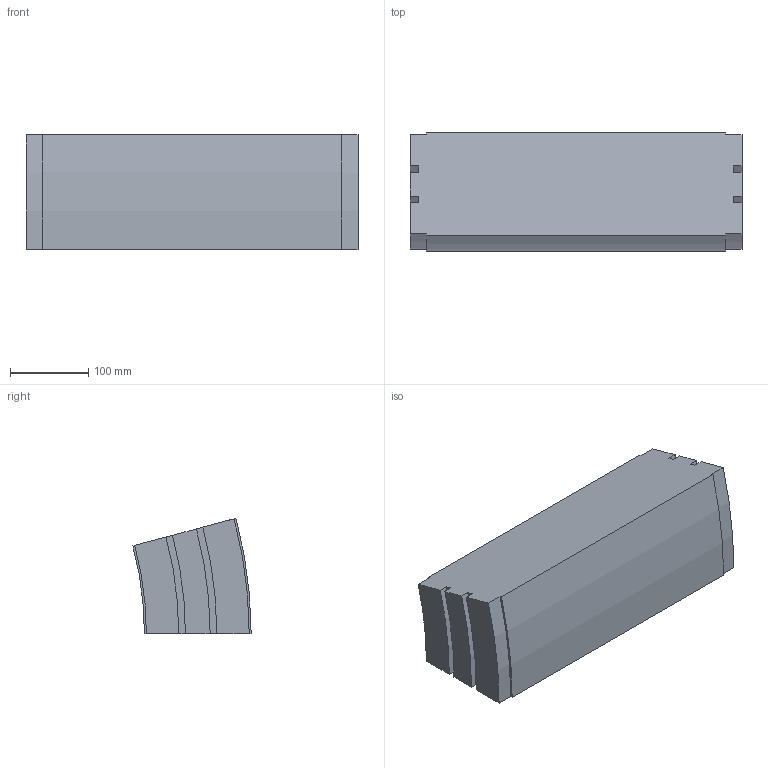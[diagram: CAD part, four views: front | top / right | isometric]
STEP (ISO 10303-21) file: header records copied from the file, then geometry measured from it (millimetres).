
FILE_DESCRIPTION (( 'STEP AP214' ), '1' );
FILE_NAME ('02.150V15.420.N FS-350-MTC-150 Bocht verticaal 15°.STEP', '2013-03-29T12:30:10', ( 'Gebruiker' ), ( '' ), 'SwSTEP 2.0', 'SolidWorks 2012', '' );
FILE_SCHEMA (( 'AUTOMOTIVE_DESIGN' ));
Length unit declared in the file: millimetre
Products named in the file (1): 02.150V15.420.N FS-350-MTC-150 Bocht verticaal 15°
Bounding box: 423 x 150.72 x 147.01 mm (x, y, z)
Volume: 7453952.2 mm3; surface area: 271753 mm2
Topology: 1 solids, 1 shells, 30 faces, 84 edges, 56 vertices
Faces by surface type: plane 16, cylinder 14
Entity records: 1010 total; most frequent: DIRECTION 174, CARTESIAN_POINT 171, ORIENTED_EDGE 168, EDGE_CURVE 84, AXIS2_PLACEMENT_3D 59, VECTOR 56, LINE 56, VERTEX_POINT 56
